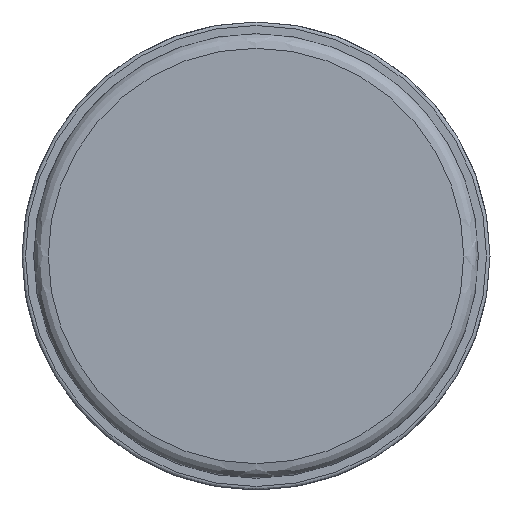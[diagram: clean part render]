
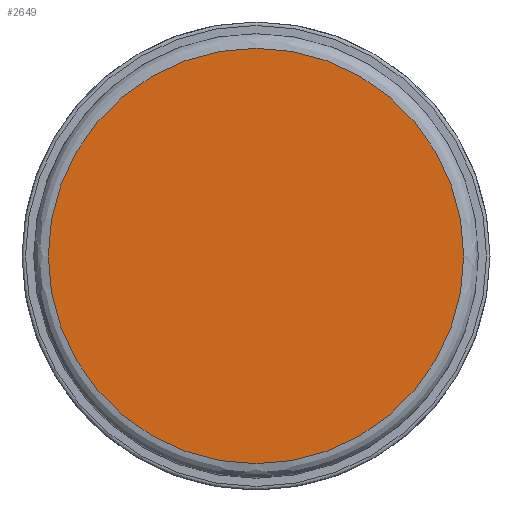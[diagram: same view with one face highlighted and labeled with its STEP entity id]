
A CAD part, left-side view. The second image highlights one B-rep face of the part: STEP entity #2649.
In plain terms, the highlighted planar face has unit normal (-1, 0, 0).
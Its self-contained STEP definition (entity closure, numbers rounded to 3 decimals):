
#2624=CARTESIAN_POINT('',(-423.561,-442.509,-68.734));
#2625=DIRECTION('',(-1.0,0.0,0.0));
#2626=DIRECTION('',(0.0,-1.0,0.0));
#2627=AXIS2_PLACEMENT_3D('',#2624,#2625,#2626);
#2628=PLANE('',#2627);
#2629=CARTESIAN_POINT('',(-423.561,-523.609,-23.134));
#2630=VERTEX_POINT('',#2629);
#2631=CARTESIAN_POINT('',(-423.561,-452.609,-23.134));
#2632=VERTEX_POINT('',#2631);
#2633=CARTESIAN_POINT('',(-423.561,-488.109,-23.134));
#2634=DIRECTION('',(-1.0,0.0,0.));
#2635=DIRECTION('',(0.0,-1.0,0.0));
#2636=AXIS2_PLACEMENT_3D('',#2633,#2634,#2635);
#2637=CIRCLE('',#2636,35.5);
#2638=EDGE_CURVE('',#2630,#2632,#2637,.T.);
#2639=ORIENTED_EDGE('',*,*,#2638,.T.);
#2640=CARTESIAN_POINT('',(-423.561,-488.109,-23.134));
#2641=DIRECTION('',(-1.0,0.0,0.));
#2642=DIRECTION('',(0.0,-1.0,0.0));
#2643=AXIS2_PLACEMENT_3D('',#2640,#2641,#2642);
#2644=CIRCLE('',#2643,35.5);
#2645=EDGE_CURVE('',#2632,#2630,#2644,.T.);
#2646=ORIENTED_EDGE('',*,*,#2645,.T.);
#2647=EDGE_LOOP('',(#2639,#2646));
#2648=FACE_OUTER_BOUND('',#2647,.T.);
#2649=ADVANCED_FACE('',(#2648),#2628,.T.);
